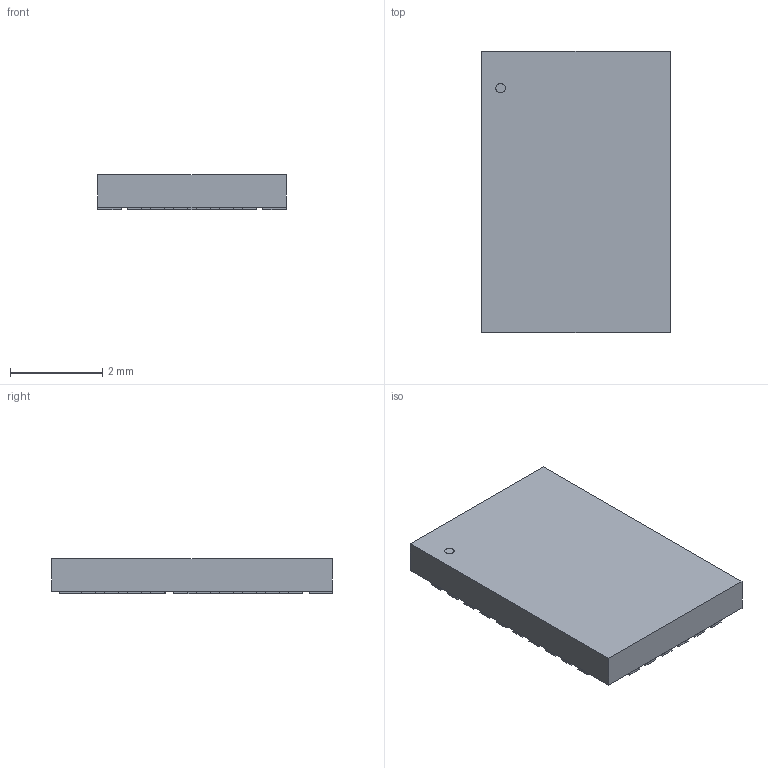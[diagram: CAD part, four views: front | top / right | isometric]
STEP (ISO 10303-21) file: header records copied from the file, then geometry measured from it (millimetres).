
FILE_DESCRIPTION(('STEP AP214'),'1');
FILE_NAME('UFE_28_ADI','2020-06-23T15:23:36',(''),(''),'','','');
FILE_SCHEMA(('AUTOMOTIVE_DESIGN'));
Length unit declared in the file: millimetre
Products named in the file (1): product
Bounding box: 4.09 x 6.1 x 0.77 mm (x, y, z)
Volume: 18.6 mm3; surface area: 101.7 mm2
Topology: 30 solids, 30 shells, 177 faces, 351 edges, 234 vertices
Faces by surface type: plane 176, cylinder 1
Full cylindrical faces by diameter (mm): 0.204 x1
Entity records: 4288 total; most frequent: DIRECTION 710, ORIENTED_EDGE 700, CARTESIAN_POINT 415, EDGE_CURVE 350, LINE 348, VECTOR 348, VERTEX_POINT 234, AXIS2_PLACEMENT_3D 181
